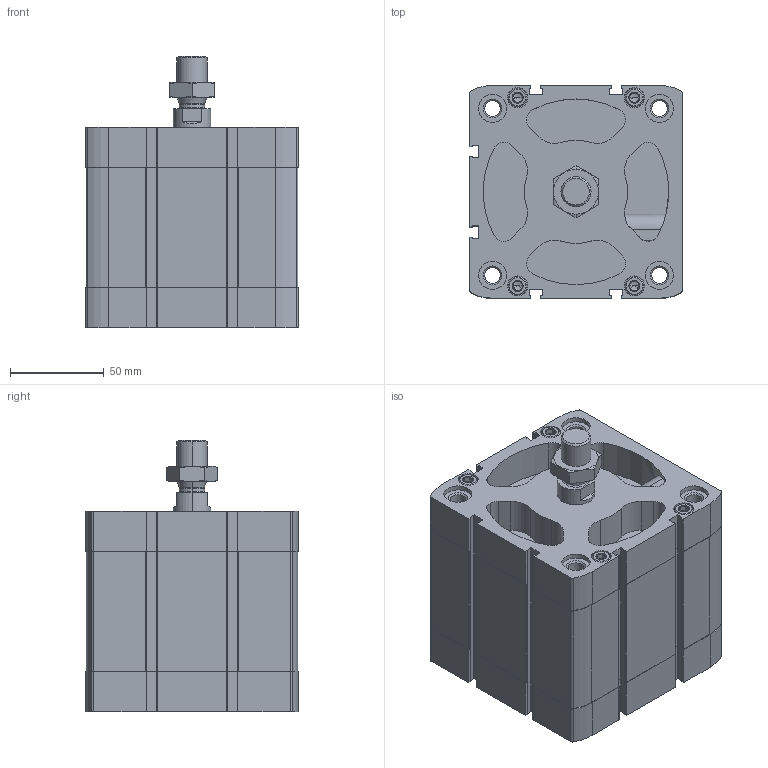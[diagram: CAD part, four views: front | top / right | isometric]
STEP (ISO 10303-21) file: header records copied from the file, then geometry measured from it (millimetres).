
FILE_DESCRIPTION (( 'STEP AP203' ), '1' );
FILE_NAME ('CCN100-40M.STEP', '2020-06-05T18:07:10', ( '' ), ( '' ), 'SwSTEP 2.0', 'SolidWorks 2019', '' );
FILE_SCHEMA (( 'CONFIG_CONTROL_DESIGN' ));
Length unit declared in the file: millimetre
Products named in the file (1): CCN100-40M
Bounding box: 113.5 x 113.5 x 144.8 mm (x, y, z)
Volume: 881446 mm3; surface area: 183505.7 mm2
Topology: 3 solids, 3 shells, 648 faces, 1673 edges, 1068 vertices
Faces by surface type: plane 292, cylinder 272, cone 80, torus 4
Entity records: 21246 total; most frequent: CARTESIAN_POINT 4984, DIRECTION 3541, ORIENTED_EDGE 3314, EDGE_CURVE 1657, AXIS2_PLACEMENT_3D 1319, VERTEX_POINT 1068, LINE 903, VECTOR 903
